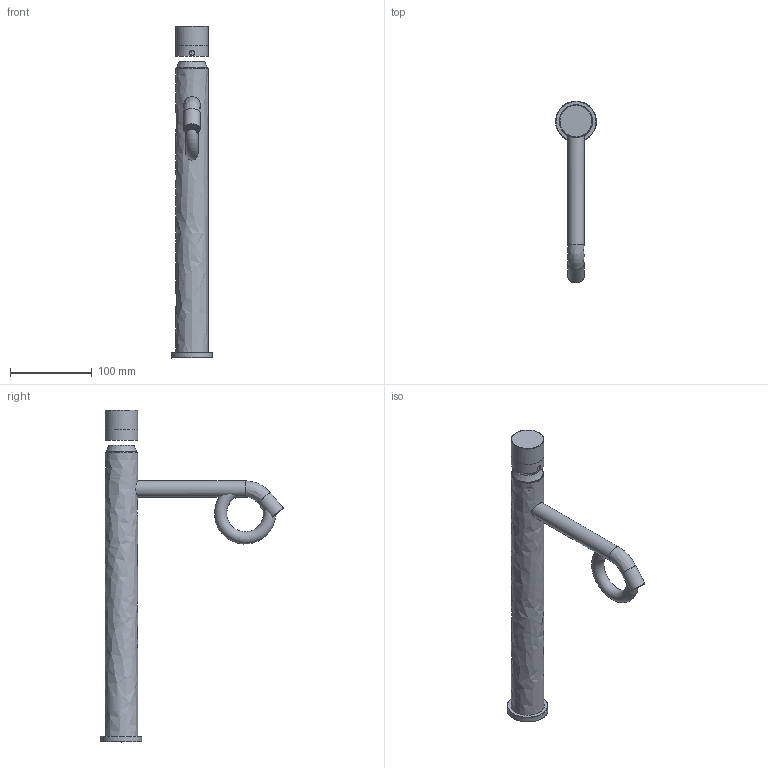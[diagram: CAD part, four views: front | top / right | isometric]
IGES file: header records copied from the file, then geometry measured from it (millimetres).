
Start section: Data from Parasolid IGES Translator 22.0.50, Copyright(c) 2006 Siemens P LM Software. All Rights Reserved.
Global section: file name: noorth-taps-H 5 D 22,3 W 40,2_5838.igs; native system: By Siemens PLM Incorporated; preprocessor: XPlus GENERIC/IGES 22.0.50; author: Noname; organization: Noname; date: 20260215.161525; units: metre
Bounding box: 50 x 222.96 x 406.57 mm (x, y, z)
Volume: 114189.6 mm3; surface area: 110192.4 mm2
Topology: 4 solids, 4 shells, 408 faces, 1229 edges, 974 vertices
Faces by surface type: plane 166, cylinder 139, bspline 76, revolution 14, extrusion 7, cone 3, torus 3
Full cylindrical faces by diameter (mm): 1 x52, 13.5 x1, 14.5 x1, 15 x3, 16.5 x1, 20 x2, 23.6 x1, 30 x1, 37 x1, 40 x2
